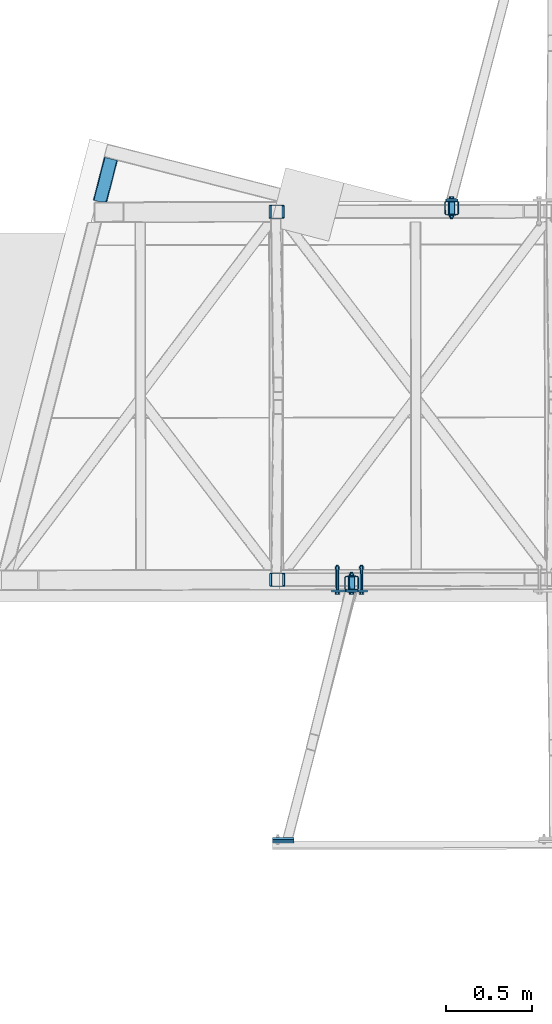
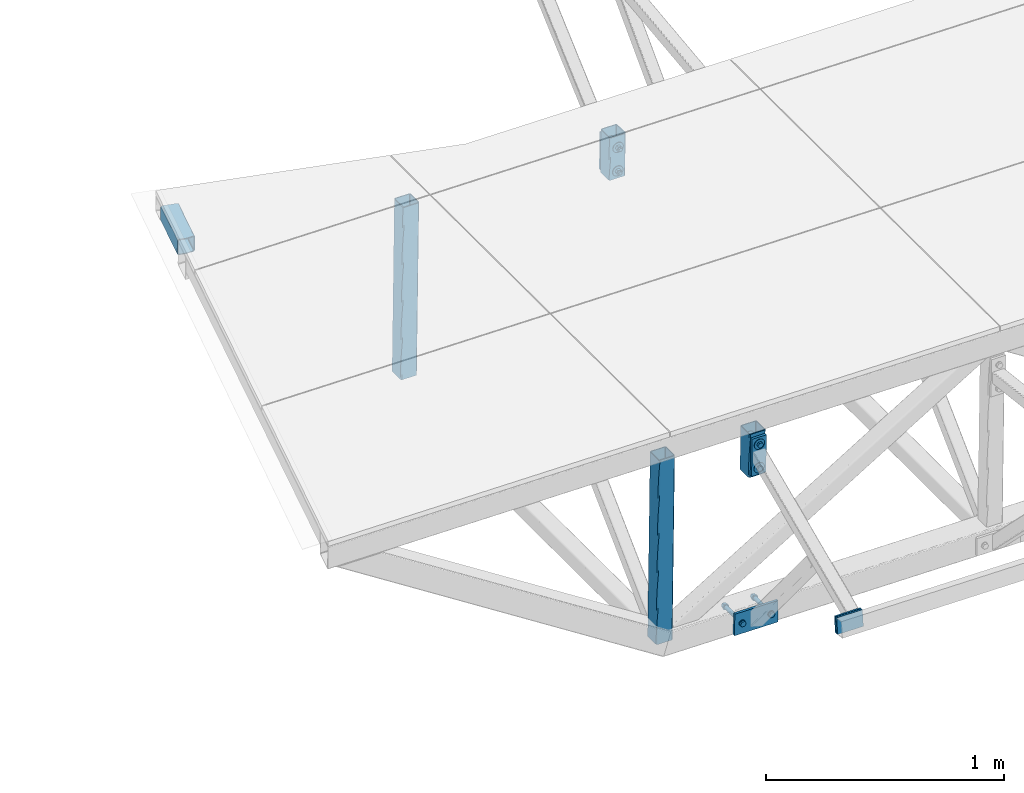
# One storey, part 85 of 169: 10 discrete accessories, 3 mechanical fasteners, 4 elements without a shape of their own.
"""IFC2X3 building model written with IfcOpenShell, lengths in millimetres."""

from ifc_helpers import new_model, si_unit, frame, frame_2d, origin_with_axes, origin_2d_with_axis, place, context, subcontext, project, spatial, polyline, circle_curve, parameter, trimmed, segment, composite_curve, rectangle, hollow_rectangle, circle, outline, extrude, clip, halfspace, source, transform, mapped, material, type_object, element, aggregate, save


model = new_model("IFC2X3")

# Units and contexts
model_context = context("Model", 3, precision=1e-05, world=origin_with_axes())
body_context = subcontext(model_context, "Body", "Model", "MODEL_VIEW")
ifc_project = project(units=[si_unit("LENGTHUNIT", "METRE", prefix="MILLI"), si_unit("AREAUNIT", "SQUARE_METRE"), si_unit("VOLUMEUNIT", "CUBIC_METRE"), si_unit("MASSUNIT", "GRAM", prefix="KILO"), si_unit("TIMEUNIT", "SECOND"), si_unit("PLANEANGLEUNIT", "RADIAN"), si_unit("SOLIDANGLEUNIT", "STERADIAN"), si_unit("THERMODYNAMICTEMPERATUREUNIT", "DEGREE_CELSIUS"), si_unit("LUMINOUSINTENSITYUNIT", "LUMEN")], contexts=[model_context])

# Site, building, storey
site_placement = place(None, origin_with_axes())
site = spatial("IfcSite", under=ifc_project, at=site_placement, Name="Undefined", CompositionType="ELEMENT")
building_placement = place(site_placement, origin_with_axes())
building = spatial("IfcBuilding", under=site, at=building_placement, Name="Undefined", CompositionType="ELEMENT")
storey_placement = place(building_placement, origin_with_axes())
storey = spatial("IfcBuildingStorey", under=building, at=storey_placement, Name="Undefined", CompositionType="ELEMENT", Elevation=0.0)

# Assembly, discrete accessory
assembly_1_placement = place(storey_placement, origin_with_axes())
assembly_1 = element("IfcElementAssembly", 1, at=assembly_1_placement, inside=storey, Name="Steel Assembly", AssemblyPlace="NOTDEFINED", PredefinedType="RIGID_FRAME")
ifc_material_1 = material(Name="STEEL/S235")
discrete_accessory_type_1 = type_object("IfcDiscreteAccessoryType", Name="BLACHA")
discrete_accessory_1_placement = place(assembly_1_placement, frame((1347.29046051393, -1397.27237123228, 13966.2264773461), z_axis=(-0.999917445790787, -0.00186469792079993, 0.0127131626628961), x_axis=(-0.0124056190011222, -0.117622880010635, -0.992980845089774)))
discrete_accessory_1 = element("IfcDiscreteAccessory", 2, at=discrete_accessory_1_placement, type_object=discrete_accessory_type_1, material=ifc_material_1, Name="BLACHA", ObjectType="BL10*125", context=body_context, shape_type="SweptSolid", body=[
    extrude(rectangle(XDim=10.0, YDim=125.0, at=origin_2d_with_axis()), frame((79.9999999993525, -4.5446979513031e-13, -4.53637127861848e-13), z_axis=(-1.0, -3.46944695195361e-18, -1.38777878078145e-17), x_axis=(1.73472347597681e-18, -1.0, 0.0)), (0.0, 0.0, 1.0), 80.0),
])

assembly_2_placement = place(storey_placement, origin_with_axes())
assembly_2 = element("IfcElementAssembly", 3, at=assembly_2_placement, inside=storey, Name="Steel Assembly", AssemblyPlace="NOTDEFINED", PredefinedType="RIGID_FRAME")
discrete_accessory_2_placement = place(assembly_2_placement, frame((1347.31947982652, -1408.26992347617, 13966.8958470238), z_axis=(-0.999917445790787, -0.00186469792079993, 0.0127131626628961), x_axis=(-0.0124056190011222, -0.117622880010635, -0.992980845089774)))
discrete_accessory_2 = element("IfcDiscreteAccessory", 4, at=discrete_accessory_2_placement, type_object=discrete_accessory_type_1, material=ifc_material_1, Name="BLACHA", ObjectType="BL10*125", context=body_context, shape_type="SweptSolid", body=[
    extrude(rectangle(XDim=10.0, YDim=125.0, at=origin_2d_with_axis()), frame((79.9999999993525, -4.5446979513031e-13, -4.53637127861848e-13), z_axis=(-1.0, -3.46944695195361e-18, -1.38777878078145e-17), x_axis=(1.73472347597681e-18, -1.0, 0.0)), (0.0, 0.0, 1.0), 80.0),
])
aggregate(assembly_2, [discrete_accessory_2])

assembly_3_placement = place(storey_placement, origin_with_axes())
assembly_3 = element("IfcElementAssembly", 5, at=assembly_3_placement, inside=storey, Name="Steel Assembly", AssemblyPlace="NOTDEFINED", PredefinedType="RIGID_FRAME")
ifc_material_2 = material(Name="STEEL/S355")
discrete_accessory_3_placement = place(assembly_3_placement, frame((2361.01172336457, 2316.42101564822, 13746.2770921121), z_axis=(-0.0018648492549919, 0.999998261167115, -4.2996762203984e-08), x_axis=(-0.999917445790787, -0.00186469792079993, 0.0127131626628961)))
discrete_accessory_3 = element("IfcDiscreteAccessory", 6, at=discrete_accessory_3_placement, type_object=discrete_accessory_type_1, material=ifc_material_2, Name="BLACHA", ObjectType="BL12*190", context=body_context, shape_type="SweptSolid", body=[
    extrude(outline(polyline([(69.9999999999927, -94.99999999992), (8.18545231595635e-11, -95.0), (-8.18545231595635e-11, 95.0000000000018), (69.9999999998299, 95.0000000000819), (69.9999999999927, -94.99999999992)])), frame((-1.81898942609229e-12, -1.81898940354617e-12, -5.99999999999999), z_axis=(0.0, 0.0, 1.0), x_axis=(1.0, 0.0, 0.0)), (0.0, 0.0, 1.0), 12.0),
])

# Discrete accessory
discrete_accessory_4_placement = place(assembly_1_placement, frame((1709.6960889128, 41.2023497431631, 13760.6253823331), z_axis=(0.00186484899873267, -0.999998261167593, 4.28757666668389e-08), x_axis=(0.9999174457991, 0.00186469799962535, -0.0127131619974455)))
discrete_accessory_4 = element("IfcDiscreteAccessory", 7, at=discrete_accessory_4_placement, type_object=discrete_accessory_type_1, material=ifc_material_2, Name="BLACHA", ObjectType="BL12*190", context=body_context, shape_type="SweptSolid", body=[
    extrude(outline(polyline([(8.18545231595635e-11, -95.0), (-8.18545231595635e-11, 95.0000000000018), (69.9999999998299, 95.0000000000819), (69.9999999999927, -94.99999999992), (8.18545231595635e-11, -95.0)])), frame((-1.81898942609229e-12, -1.81898940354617e-12, -5.99999999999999), z_axis=(0.0, 0.0, 1.0), x_axis=(1.0, 0.0, 0.0)), (0.0, 0.0, 1.0), 12.0),
])

discrete_accessory_5_placement = place(assembly_1_placement, frame((1836.34668757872, 41.4384988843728, 12930.8457779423), z_axis=(0.00186484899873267, -0.999998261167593, 4.28757666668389e-08), x_axis=(-0.999917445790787, -0.00186469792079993, 0.0127131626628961)))
discrete_accessory_5 = element("IfcDiscreteAccessory", 8, at=discrete_accessory_5_placement, type_object=discrete_accessory_type_1, material=ifc_material_2, Name="BLACHA", ObjectType="BL12*110", context=body_context, shape_type="SweptSolid", body=[
    extrude(outline(polyline([(210.000000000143, 54.999999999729), (210.000000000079, -55.0000000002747), (2.00088834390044e-11, -54.9999999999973), (-2.00088834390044e-11, 54.9999999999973), (210.000000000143, 54.999999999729)])), frame((-1.81898942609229e-12, -1.81898940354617e-12, -5.99999999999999), z_axis=(0.0, 0.0, 1.0), x_axis=(1.0, 0.0, 0.0)), (0.0, 0.0, 1.0), 12.0),
])

# Assembly, discrete accessories
assembly_4_placement = place(storey_placement, origin_with_axes())
assembly_4 = element("IfcElementAssembly", 9, at=assembly_4_placement, inside=storey, Name="Steel Assembly", AssemblyPlace="NOTDEFINED", PredefinedType="RIGID_FRAME")
discrete_accessory_type_2 = type_object("IfcDiscreteAccessoryType", Name="BEAM")
discrete_accessory_6_placement = place(assembly_4_placement, frame((2324.83159306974, 2269.35345911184, 13648.6406954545), z_axis=(-0.0018648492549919, 0.999998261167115, -4.2996762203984e-08), x_axis=(0.012713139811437, 2.3750999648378e-05, 0.999919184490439)))
discrete_accessory_6 = element("IfcDiscreteAccessory", 10, at=discrete_accessory_6_placement, type_object=discrete_accessory_type_2, material=ifc_material_2, Name="BEAM", ObjectType="K80/4", context=body_context, shape_type="Clipping", body=[
    clip(extrude(hollow_rectangle(XDim=80.0, YDim=80.0, WallThickness=4.0, InnerFilletRadius=4.0, OuterFilletRadius=8.0, at=origin_2d_with_axis()), frame((216.00000037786, -3.74700271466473e-16, -8.04734240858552e-19), z_axis=(-1.0, -3.46944695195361e-18, -1.38777878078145e-17), x_axis=(1.73472347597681e-18, -1.0, 0.0)), (0.0, 0.0, 1.0), 216.0), halfspace(frame((216.00000025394, 7.30015017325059e-08, 999.999999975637), z_axis=(-1.0, -3.46944695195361e-18, -1.38777878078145e-17), x_axis=(1.73472347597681e-18, -1.0, 0.0)), True)),
])
discrete_accessory_7_placement = place(assembly_4_placement, frame((1742.89433874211, 88.2643366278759, 13652.0910276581), z_axis=(-0.0018648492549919, 0.999998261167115, -4.2996762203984e-08), x_axis=(0.012713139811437, 2.3750999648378e-05, 0.999919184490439)))
discrete_accessory_7 = element("IfcDiscreteAccessory", 11, at=discrete_accessory_7_placement, type_object=discrete_accessory_type_2, material=ifc_material_2, Name="BEAM", ObjectType="K80/4", context=body_context, shape_type="Clipping", body=[
    clip(extrude(hollow_rectangle(XDim=80.0, YDim=80.0, WallThickness=4.0, InnerFilletRadius=4.0, OuterFilletRadius=8.0, at=origin_2d_with_axis()), frame((220.000000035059, 5.64865096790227e-19, 9.09533525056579e-13), z_axis=(-1.0, -3.46944695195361e-18, -1.38777878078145e-17), x_axis=(1.73472347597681e-18, -1.0, 0.0)), (0.0, 0.0, 1.0), 220.0), halfspace(frame((219.999998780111, -1.30057742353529e-09, 999.999999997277), z_axis=(-1.0, -3.46944695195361e-18, -1.38777878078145e-17), x_axis=(1.73472347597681e-18, -1.0, 0.0)), True)),
])
discrete_accessory_8_placement = place(assembly_4_placement, frame((272.858478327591, 2277.93273624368, 13970.7535443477), z_axis=(0.968799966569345, -0.247537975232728, -0.0123116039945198), x_axis=(0.247517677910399, 0.968878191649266, -0.00316999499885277)))
discrete_accessory_8 = element("IfcDiscreteAccessory", 12, at=discrete_accessory_8_placement, type_object=discrete_accessory_type_2, material=ifc_material_2, Name="BEAM", ObjectType="K80/4", context=body_context, shape_type="Clipping", body=[
    clip(clip(extrude(hollow_rectangle(XDim=80.0, YDim=80.0, WallThickness=4.0, InnerFilletRadius=4.0, OuterFilletRadius=8.0, at=origin_2d_with_axis()), frame((286.537382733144, -2.48531562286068e-16, -6.32003902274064e-14), z_axis=(-1.0, -3.46944695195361e-18, -1.38777878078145e-17), x_axis=(1.73472347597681e-18, -1.0, 0.0)), (0.0, 0.0, 1.0), 258.04), halfspace(frame((286.537382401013, 3.71073838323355e-10, -999.999999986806), z_axis=(-1.0, -3.46944695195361e-18, -1.38777878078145e-17), x_axis=(0.0, 1.0, 0.0)), True)), halfspace(frame((-224.702108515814, 1.72203726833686e-08, -983.375576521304), z_axis=(0.968414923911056, 4.17288125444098e-10, -0.249344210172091), x_axis=(1.73472347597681e-18, -1.0, 0.0)), True)),
])
discrete_accessory_9_placement = place(assembly_4_placement, frame((1302.00868108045, 2247.44598015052, 12937.5869302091), z_axis=(-0.999917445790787, -0.00186469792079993, 0.0127131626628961), x_axis=(0.012713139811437, 2.3750999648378e-05, 0.999919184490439)))
discrete_accessory_9 = element("IfcDiscreteAccessory", 13, at=discrete_accessory_9_placement, type_object=discrete_accessory_type_2, material=ifc_material_2, Name="BEAM", ObjectType="K80/4", context=body_context, shape_type="Clipping", body=[
    clip(clip(extrude(hollow_rectangle(XDim=80.0, YDim=80.0, WallThickness=4.0, InnerFilletRadius=4.0, OuterFilletRadius=8.0, at=origin_2d_with_axis()), frame((940.000112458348, 4.54747487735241e-13, 0.0), z_axis=(-1.0, -3.46944695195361e-18, -1.38777878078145e-17), x_axis=(1.73472347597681e-18, -1.0, 0.0)), (0.0, 0.0, 1.0), 880.0), halfspace(frame((940.000112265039, -6.72889655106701e-09, 999.999999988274), z_axis=(-1.0, -3.46944695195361e-18, -1.38777878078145e-17), x_axis=(1.73472347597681e-18, -1.0, 0.0)), True)), halfspace(frame((60.0001122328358, 8.14088707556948e-09, 1000.00000001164), z_axis=(1.0, 0.0, 0.0), x_axis=(0.0, 1.0, 0.0)), True)),
])
discrete_accessory_10_placement = place(assembly_4_placement, frame((1305.99945945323, 107.449596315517, 12937.587022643), z_axis=(-0.999917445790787, -0.00186469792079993, 0.0127131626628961), x_axis=(0.012713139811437, 2.3750999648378e-05, 0.999919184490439)))
discrete_accessory_10 = element("IfcDiscreteAccessory", 14, at=discrete_accessory_10_placement, type_object=discrete_accessory_type_2, material=ifc_material_2, Name="BEAM", ObjectType="K80/4", context=body_context, shape_type="Clipping", body=[
    clip(extrude(hollow_rectangle(XDim=80.0, YDim=80.0, WallThickness=4.0, InnerFilletRadius=4.0, OuterFilletRadius=8.0, at=origin_2d_with_axis()), frame((940.000112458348, 4.54747487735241e-13, 0.0), z_axis=(-1.0, -3.46944695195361e-18, -1.38777878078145e-17), x_axis=(1.73472347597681e-18, -1.0, 0.0)), (0.0, 0.0, 1.0), 940.0), halfspace(frame((940.000112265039, -6.72889655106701e-09, 999.999999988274), z_axis=(-1.0, -3.46944695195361e-18, -1.38777878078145e-17), x_axis=(1.73472347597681e-18, -1.0, 0.0)), True)),
])
aggregate(assembly_4, [discrete_accessory_6, discrete_accessory_7, discrete_accessory_8, discrete_accessory_9, discrete_accessory_10])

# Mechanical fastener
ifc_material_3 = material(Name="Undefined")
discrete_accessory_type_3 = type_object("IfcDiscreteAccessoryType", Name="Bolt assembly")
shared_shape_1 = source(origin_with_axes(), body_context, "Body", "SweptSolid", [
    extrude(outline(composite_curve([segment(polyline([(-10.0, 9.5), (10.0, 9.5)]), True, "CONTINUOUS"), segment(trimmed(circle_curve(frame_2d((10.0, 0.0), x_axis=(0.0, 1.0)), 9.5), [parameter(0.0)], [parameter(3.14159265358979)], False, "PARAMETER"), True, "CONTINUOUS"), segment(polyline([(10.0, -9.5), (-10.0, -9.5)]), True, "CONTINUOUS"), segment(trimmed(circle_curve(frame_2d((-10.0, 0.0), x_axis=(0.0, -1.0)), 9.5), [parameter(0.0)], [parameter(3.14159265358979)], False, "PARAMETER"), True, "DISCONTINUOUS")], self_intersect=False)), frame((0.0, 4.39999998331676, 0.0), z_axis=(0.0, 1.0, 0.0), x_axis=(1.0, 0.0, 0.0)), (0.0, 0.0, 1.0), 80.1),
    extrude(outline(composite_curve([segment(polyline([(9.5, 10.0), (9.5, -10.0)]), True, "CONTINUOUS"), segment(trimmed(circle_curve(frame_2d((0.0, -10.0), x_axis=(1.0, 0.0)), 9.5), [parameter(0.0)], [parameter(3.14159265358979)], False, "PARAMETER"), True, "CONTINUOUS"), segment(polyline([(-9.5, -10.0), (-9.5, 10.0)]), True, "CONTINUOUS"), segment(trimmed(circle_curve(frame_2d((0.0, 10.0), x_axis=(-1.0, 0.0)), 9.5), [parameter(0.0)], [parameter(3.14159265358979)], False, "PARAMETER"), True, "DISCONTINUOUS")], self_intersect=False)), frame((0.0, -8.39999975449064, 0.0), z_axis=(0.0, 1.0, 0.0), x_axis=(1.0, 0.0, 0.0)), (0.0, 0.0, 1.0), 12.0),
    extrude(outline(polyline([(13.85640646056, 0.0), (6.92820323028, 12.0000000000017), (-6.92820323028, 12.0000000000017), (-13.85640646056, 0.0), (-6.92820323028, -12.0000000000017), (6.92820323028, -12.0000000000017), (13.85640646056, 0.0)])), frame((0.0, -21.4999999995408, 0.0), z_axis=(0.0, 1.0, 0.0), x_axis=(1.0, 0.0, 0.0)), (0.0, 0.0, 1.0), 10.0),
    extrude(circle(Radius=8.0, at=origin_2d_with_axis()), frame((0.0, -11.4999999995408, 0.0), z_axis=(0.0, 1.0, 0.0), x_axis=(1.0, 0.0, 0.0)), (0.0, 0.0, 1.0), 120.0),
    extrude(circle(Radius=25.0, at=origin_2d_with_axis()), frame((0.0, -11.4999999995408, 0.0), z_axis=(0.0, 1.0, 0.0), x_axis=(1.0, 0.0, 0.0)), (0.0, 0.0, 1.0), 3.0),
    extrude(circle(Radius=25.0, at=origin_2d_with_axis()), frame((0.0, 84.4999999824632, 0.0), z_axis=(0.0, 1.0, 0.0), x_axis=(1.0, 0.0, 0.0)), (0.0, 0.0, 1.0), 3.0),
    extrude(outline(polyline([(13.85640646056, 0.0), (6.92820323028, 12.0000000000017), (-6.92820323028, 12.0000000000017), (-13.85640646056, 0.0), (-6.92820323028, -12.0000000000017), (6.92820323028, -12.0000000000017), (13.85640646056, 0.0)])), frame((0.0, 87.4999999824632, 0.0), z_axis=(0.0, 1.0, 0.0), x_axis=(1.0, 0.0, 0.0)), (0.0, 0.0, 1.0), 13.0),
])
mechanical_fastener_1_placement = place(assembly_3_placement, frame((2326.01927417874, 2313.85575556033, 13746.7220529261), z_axis=(-0.012713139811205, -2.37511238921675e-05, -0.999919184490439), x_axis=(0.9999174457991, 0.00186469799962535, -0.0127131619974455)))
mechanical_fastener_1 = element("IfcMechanicalFastener", 15, at=mechanical_fastener_1_placement, type_object=discrete_accessory_type_3, material=ifc_material_3, Name="Bolt assembly", NominalDiameter=16.0, NominalLength=120.0, context=body_context, shape_type="MappedRepresentation", body=[
    mapped(shared_shape_1, transform((1.18234311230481e-11, 9.20081788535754e-11, -60.0000000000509))),
    mapped(shared_shape_1, transform((-1.2732925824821e-11, -9.20223897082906e-11, 60.0000000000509))),
])

aggregate(assembly_3, [mechanical_fastener_1, discrete_accessory_3])

shared_shape_2 = source(origin_with_axes(), body_context, "Body", "SweptSolid", [
    extrude(outline(composite_curve([segment(polyline([(-10.0, 9.5), (10.0, 9.5)]), True, "CONTINUOUS"), segment(trimmed(circle_curve(frame_2d((10.0, 0.0), x_axis=(0.0, 1.0)), 9.5), [parameter(0.0)], [parameter(3.14159265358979)], False, "PARAMETER"), True, "CONTINUOUS"), segment(polyline([(10.0, -9.5), (-10.0, -9.5)]), True, "CONTINUOUS"), segment(trimmed(circle_curve(frame_2d((-10.0, 0.0), x_axis=(0.0, -1.0)), 9.5), [parameter(0.0)], [parameter(3.14159265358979)], False, "PARAMETER"), True, "DISCONTINUOUS")], self_intersect=False)), frame((0.0, 4.39999998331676, 0.0), z_axis=(0.0, 1.0, 0.0), x_axis=(1.0, 0.0, 0.0)), (0.0, 0.0, 1.0), 80.1),
    extrude(outline(composite_curve([segment(polyline([(9.5, 10.0), (9.5, -10.0)]), True, "CONTINUOUS"), segment(trimmed(circle_curve(frame_2d((0.0, -10.0), x_axis=(1.0, 0.0)), 9.5), [parameter(0.0)], [parameter(3.14159265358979)], False, "PARAMETER"), True, "CONTINUOUS"), segment(polyline([(-9.5, -10.0), (-9.5, 10.0)]), True, "CONTINUOUS"), segment(trimmed(circle_curve(frame_2d((0.0, 10.0), x_axis=(-1.0, 0.0)), 9.5), [parameter(0.0)], [parameter(3.14159265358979)], False, "PARAMETER"), True, "DISCONTINUOUS")], self_intersect=False)), frame((0.0, -8.39999975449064, 0.0), z_axis=(0.0, 1.0, 0.0), x_axis=(1.0, 0.0, 0.0)), (0.0, 0.0, 1.0), 12.0),
    extrude(outline(polyline([(13.85640646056, 0.0), (6.92820323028, 12.0000000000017), (-6.92820323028, 12.0000000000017), (-13.85640646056, 0.0), (-6.92820323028, -12.0000000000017), (6.92820323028, -12.0000000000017), (13.85640646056, 0.0)])), frame((0.0, -21.4999999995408, 0.0), z_axis=(0.0, 1.0, 0.0), x_axis=(1.0, 0.0, 0.0)), (0.0, 0.0, 1.0), 10.0),
    extrude(circle(Radius=8.0, at=origin_2d_with_axis()), frame((0.0, -11.4999999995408, 0.0), z_axis=(0.0, 1.0, 0.0), x_axis=(1.0, 0.0, 0.0)), (0.0, 0.0, 1.0), 120.0),
    extrude(circle(Radius=25.0, at=origin_2d_with_axis()), frame((0.0, -11.4999999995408, 0.0), z_axis=(0.0, 1.0, 0.0), x_axis=(1.0, 0.0, 0.0)), (0.0, 0.0, 1.0), 3.0),
    extrude(circle(Radius=25.0, at=origin_2d_with_axis()), frame((0.0, 84.4999999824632, 0.0), z_axis=(0.0, 1.0, 0.0), x_axis=(1.0, 0.0, 0.0)), (0.0, 0.0, 1.0), 3.0),
    extrude(outline(polyline([(13.85640646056, 0.0), (6.92820323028, 12.0000000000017), (-6.92820323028, 12.0000000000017), (-13.85640646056, 0.0), (-6.92820323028, -12.0000000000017), (6.92820323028, -12.0000000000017), (13.85640646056, 0.0)])), frame((0.0, 87.4999999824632, 0.0), z_axis=(0.0, 1.0, 0.0), x_axis=(1.0, 0.0, 0.0)), (0.0, 0.0, 1.0), 13.0),
])
mechanical_fastener_2_placement = place(assembly_1_placement, frame((1744.68853816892, 43.7676098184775, 13760.1804215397), z_axis=(-0.012713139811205, -2.37511238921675e-05, -0.999919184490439), x_axis=(-0.999917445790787, -0.00186469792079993, 0.0127131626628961)))
mechanical_fastener_2 = element("IfcMechanicalFastener", 16, at=mechanical_fastener_2_placement, type_object=discrete_accessory_type_3, material=ifc_material_3, Name="Bolt assembly", NominalDiameter=16.0, NominalLength=120.0, context=body_context, shape_type="MappedRepresentation", body=[
    mapped(shared_shape_2, transform((1.18234311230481e-11, 9.20081788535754e-11, -60.0000000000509))),
    mapped(shared_shape_2, transform((-1.2732925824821e-11, -9.20223897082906e-11, 60.0000000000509))),
])

shared_shape_3 = source(origin_with_axes(), body_context, "Body", "SweptSolid", [
    extrude(circle(Radius=9.5, at=origin_2d_with_axis()), frame((0.0, 4.39999998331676, 0.0), z_axis=(0.0, 1.0, 0.0), x_axis=(1.0, 0.0, 0.0)), (0.0, 0.0, 1.0), 120.1),
    extrude(outline(composite_curve([segment(polyline([(9.5, 10.0), (9.5, -10.0)]), True, "CONTINUOUS"), segment(trimmed(circle_curve(frame_2d((0.0, -10.0), x_axis=(1.0, 0.0)), 9.5), [parameter(0.0)], [parameter(3.14159265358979)], False, "PARAMETER"), True, "CONTINUOUS"), segment(polyline([(-9.5, -10.0), (-9.5, 10.0)]), True, "CONTINUOUS"), segment(trimmed(circle_curve(frame_2d((0.0, 10.0), x_axis=(-1.0, 0.0)), 9.5), [parameter(0.0)], [parameter(3.14159265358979)], False, "PARAMETER"), True, "DISCONTINUOUS")], self_intersect=False)), frame((0.0, -8.39999975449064, 0.0), z_axis=(0.0, 1.0, 0.0), x_axis=(1.0, 0.0, 0.0)), (0.0, 0.0, 1.0), 12.0),
    extrude(outline(polyline([(13.85640646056, 0.0), (6.92820323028, 12.0000000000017), (-6.92820323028, 12.0000000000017), (-13.85640646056, 0.0), (-6.92820323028, -12.0000000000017), (6.92820323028, -12.0000000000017), (13.85640646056, 0.0)])), frame((0.0, -21.4999999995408, 0.0), z_axis=(0.0, 1.0, 0.0), x_axis=(1.0, 0.0, 0.0)), (0.0, 0.0, 1.0), 10.0),
    extrude(circle(Radius=8.0, at=origin_2d_with_axis()), frame((0.0, -11.4999999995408, 0.0), z_axis=(0.0, 1.0, 0.0), x_axis=(1.0, 0.0, 0.0)), (0.0, 0.0, 1.0), 160.0),
    extrude(circle(Radius=15.0, at=origin_2d_with_axis()), frame((0.0, -11.4999999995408, 0.0), z_axis=(0.0, 1.0, 0.0), x_axis=(1.0, 0.0, 0.0)), (0.0, 0.0, 1.0), 3.0),
    extrude(circle(Radius=15.0, at=origin_2d_with_axis()), frame((0.0, 124.499999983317, 0.0), z_axis=(0.0, 1.0, 0.0), x_axis=(1.0, 0.0, 0.0)), (0.0, 0.0, 1.0), 3.0),
    extrude(outline(polyline([(13.85640646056, 0.0), (6.92820323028, 12.0000000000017), (-6.92820323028, 12.0000000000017), (-13.85640646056, 0.0), (-6.92820323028, -12.0000000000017), (6.92820323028, -12.0000000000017), (13.85640646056, 0.0)])), frame((0.0, 127.499999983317, 0.0), z_axis=(0.0, 1.0, 0.0), x_axis=(1.0, 0.0, 0.0)), (0.0, 0.0, 1.0), 13.0),
])
mechanical_fastener_3_placement = place(assembly_1_placement, frame((1661.35647249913, 43.6121723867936, 12933.0705857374), z_axis=(0.012713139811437, 2.3750999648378e-05, 0.999919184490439), x_axis=(0.9999174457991, 0.00186469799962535, -0.0127131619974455)))
mechanical_fastener_3 = element("IfcMechanicalFastener", 17, at=mechanical_fastener_3_placement, type_object=discrete_accessory_type_3, material=ifc_material_3, Name="Bolt assembly", NominalDiameter=16.0, NominalLength=160.0, context=body_context, shape_type="MappedRepresentation", body=[
    mapped(shared_shape_3, transform((0.0, 0.0, 0.0))),
    mapped(shared_shape_3, transform((139.999999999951, -4.15525391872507e-11, -3.09228198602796e-11))),
])

aggregate(assembly_1, [discrete_accessory_1, mechanical_fastener_2, discrete_accessory_4, mechanical_fastener_3, discrete_accessory_5])

save(model, "model.ifc")
